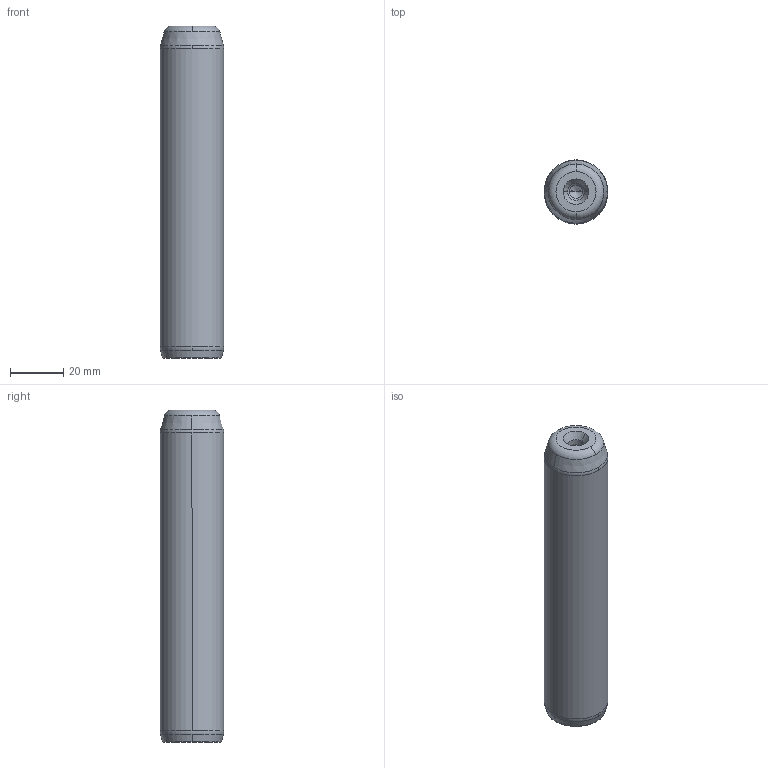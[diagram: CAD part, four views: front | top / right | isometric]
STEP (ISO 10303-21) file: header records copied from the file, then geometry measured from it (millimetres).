
FILE_DESCRIPTION((''),'2;1');
FILE_NAME('P10_024_125.stp','2008-12-23T14:34:36',(''),(''),'Mechanical Desktop 2009','Mechanical Desktop 2009',', , ');
FILE_SCHEMA(('CONFIG_CONTROL_DESIGN'));
Length unit declared in the file: millimetre
Products named in the file (5): Product; ProductAA; blmdl1; ProductA; blmdl1A
Assembly tree (2 placements, depth 3):
  Product
    ProductAA
      blmdl1
  ProductA
  blmdl1A
Bounding box: 24 x 24 x 125 mm (x, y, z)
Volume: 55215.4 mm3; surface area: 10361.6 mm2
Topology: 1 solids, 1 shells, 26 faces, 66 edges, 41 vertices
Faces by surface type: cone 10, torus 8, cylinder 6, plane 2
Entity records: 1012 total; most frequent: DIRECTION 170, CARTESIAN_POINT 134, ORIENTED_EDGE 128, AXIS2_PLACEMENT_3D 77, EDGE_CURVE 64, CIRCLE 48, VERTEX_POINT 41, EDGE_LOOP 27
